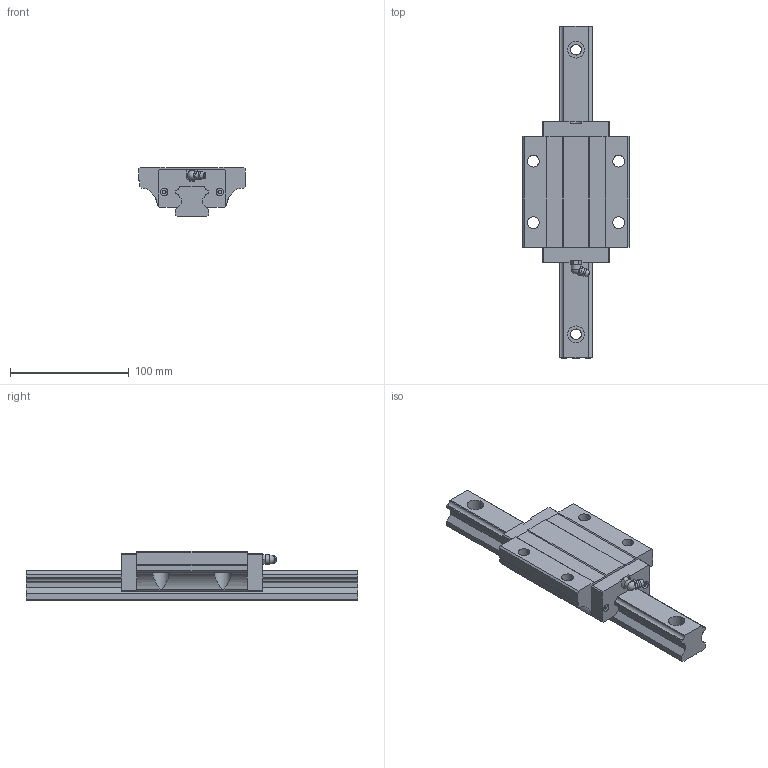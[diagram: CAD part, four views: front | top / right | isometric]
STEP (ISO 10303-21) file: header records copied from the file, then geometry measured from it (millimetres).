
FILE_DESCRIPTION(/* description */ (''),/* implementation_level */ '2;1');
FILE_NAME(/* name */ 'MSA30LA',/* time_stamp */ '2003-12-29T13:08:17+08:00',/* author */ (''),/* organization */ (''),/* preprocessor_version */ 'ST-DEVELOPER v9',/* originating_system */ '',/* authorisation */ '');
FILE_SCHEMA (('CONFIG_CONTROL_DESIGN'));
Length unit declared in the file: millimetre
Products named in the file (1): zirc5932mwhc
Bounding box: 90 x 280 x 42 mm (x, y, z)
Volume: 394918.3 mm3; surface area: 74721.6 mm2
Topology: 3 solids, 3 shells, 206 faces, 561 edges, 370 vertices
Faces by surface type: plane 146, cylinder 49, torus 7, sphere 2, cone 1, bspline 1
Full cylindrical faces by diameter (mm): 3.25 x4, 6.5 x5, 8 x1, 9 x4, 10 x4, 14 x4
Entity records: 6566 total; most frequent: CARTESIAN_POINT 1304, DIRECTION 1057, ORIENTED_EDGE 1056, EDGE_CURVE 528, VERTEX_POINT 364, LINE 359, VECTOR 359, AXIS2_PLACEMENT_3D 349
